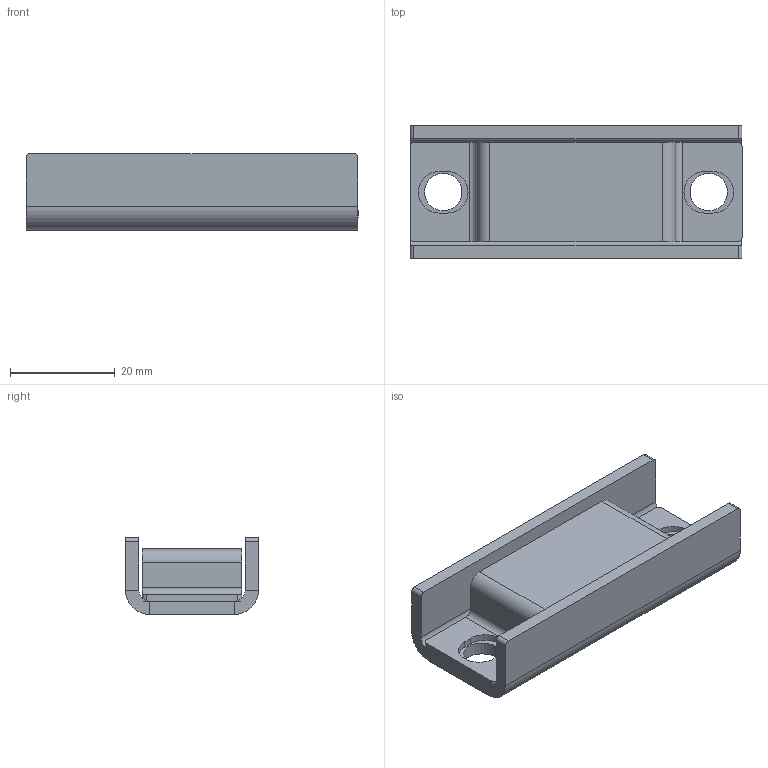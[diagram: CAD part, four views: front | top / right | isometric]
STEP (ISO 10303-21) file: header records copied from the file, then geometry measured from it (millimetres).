
FILE_DESCRIPTION (( 'STEP AP203' ), '1' );
FILE_NAME ('LC2360.STEP', '2018-07-27T14:44:36', ( '' ), ( '' ), 'SwSTEP 2.0', 'SolidWorks 2015', '' );
FILE_SCHEMA (( 'CONFIG_CONTROL_DESIGN' ));
Length unit declared in the file: inch
Products named in the file (1): LC2360
Bounding box: 63.5 x 25.4 x 14.68 mm (x, y, z)
Volume: 9072.5 mm3; surface area: 9485.7 mm2
Topology: 2 solids, 2 shells, 82 faces, 186 edges, 108 vertices
Faces by surface type: plane 52, cylinder 30
Entity records: 2339 total; most frequent: DIRECTION 412, CARTESIAN_POINT 377, ORIENTED_EDGE 372, EDGE_CURVE 186, AXIS2_PLACEMENT_3D 143, VECTOR 126, LINE 126, VERTEX_POINT 108
